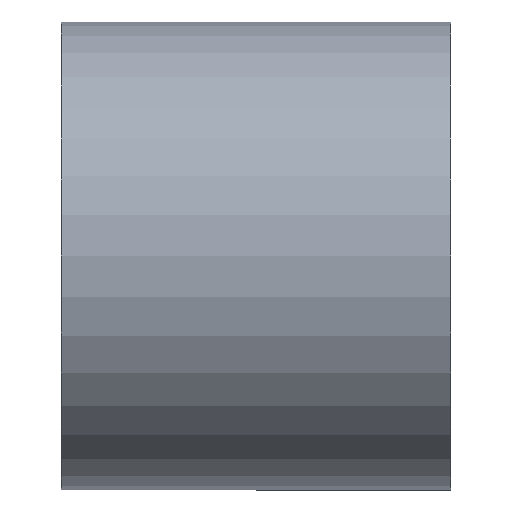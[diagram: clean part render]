
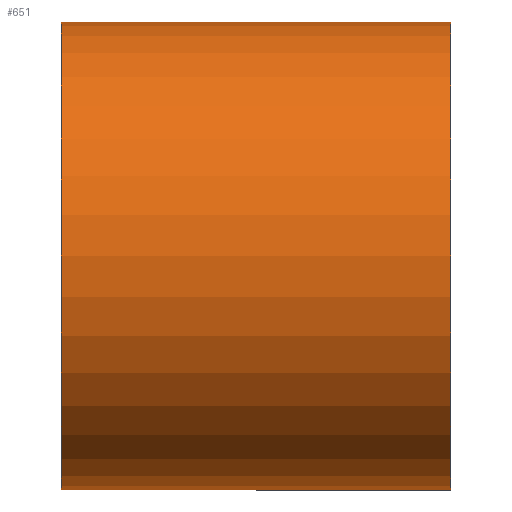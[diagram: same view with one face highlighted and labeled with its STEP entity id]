
A CAD part, front view. The second image highlights one B-rep face of the part: STEP entity #651.
In plain terms, the highlighted cylindrical face has radius 15 mm (diameter 30 mm), a partial arc.
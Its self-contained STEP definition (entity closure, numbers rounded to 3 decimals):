
#33 = LINE ( 'NONE', #113, #798 ) ;
#63 = VERTEX_POINT ( 'NONE', #495 ) ;
#79 = DIRECTION ( 'NONE',  ( -1., 0., 0. ) ) ;
#82 = EDGE_CURVE ( 'NONE', #349, #63, #282, .T. ) ;
#107 = AXIS2_PLACEMENT_3D ( 'NONE', #829, #79, #476 ) ;
#113 = CARTESIAN_POINT ( 'NONE',  ( 0., 0., -15. ) ) ;
#116 = CARTESIAN_POINT ( 'NONE',  ( -12.5, 0., -15. ) ) ;
#145 = EDGE_CURVE ( 'NONE', #63, #871, #212, .T. ) ;
#184 = EDGE_CURVE ( 'NONE', #349, #625, #33, .T. ) ;
#191 = CYLINDRICAL_SURFACE ( 'NONE', #738, 15. ) ;
#212 = LINE ( 'NONE', #478, #470 ) ;
#262 = EDGE_LOOP ( 'NONE', ( #484, #884, #827, #727 ) ) ;
#282 = CIRCLE ( 'NONE', #426, 15. ) ;
#307 = DIRECTION ( 'NONE',  ( -1., 0., 0. ) ) ;
#349 = VERTEX_POINT ( 'NONE', #764 ) ;
#416 = DIRECTION ( 'NONE',  ( -1., 0., 0. ) ) ;
#426 = AXIS2_PLACEMENT_3D ( 'NONE', #843, #441, #588 ) ;
#441 = DIRECTION ( 'NONE',  ( -1., 0., 0. ) ) ;
#449 = CARTESIAN_POINT ( 'NONE',  ( 0., 0., 0. ) ) ;
#470 = VECTOR ( 'NONE', #416, 1000. ) ;
#476 = DIRECTION ( 'NONE',  ( 0., 0., 1. ) ) ;
#478 = CARTESIAN_POINT ( 'NONE',  ( 0., 0., 15. ) ) ;
#480 = CIRCLE ( 'NONE', #107, 15. ) ;
#484 = ORIENTED_EDGE ( 'NONE', *, *, #184, .F. ) ;
#495 = CARTESIAN_POINT ( 'NONE',  ( 12.5, 0., 15. ) ) ;
#588 = DIRECTION ( 'NONE',  ( 0., 0., 1. ) ) ;
#614 = DIRECTION ( 'NONE',  ( 0., 0., 1. ) ) ;
#625 = VERTEX_POINT ( 'NONE', #116 ) ;
#651 = ADVANCED_FACE ( 'NONE', ( #659 ), #191, .T. ) ;
#654 = DIRECTION ( 'NONE',  ( -1., 0., 0. ) ) ;
#659 = FACE_OUTER_BOUND ( 'NONE', #262, .T. ) ;
#727 = ORIENTED_EDGE ( 'NONE', *, *, #763, .F. ) ;
#738 = AXIS2_PLACEMENT_3D ( 'NONE', #449, #654, #614 ) ;
#763 = EDGE_CURVE ( 'NONE', #625, #871, #480, .T. ) ;
#764 = CARTESIAN_POINT ( 'NONE',  ( 12.5, 0., -15. ) ) ;
#780 = CARTESIAN_POINT ( 'NONE',  ( -12.5, 0., 15. ) ) ;
#798 = VECTOR ( 'NONE', #307, 1000. ) ;
#827 = ORIENTED_EDGE ( 'NONE', *, *, #145, .T. ) ;
#829 = CARTESIAN_POINT ( 'NONE',  ( -12.5, 0., 0. ) ) ;
#843 = CARTESIAN_POINT ( 'NONE',  ( 12.5, 0., 0. ) ) ;
#871 = VERTEX_POINT ( 'NONE', #780 ) ;
#884 = ORIENTED_EDGE ( 'NONE', *, *, #82, .T. ) ;
